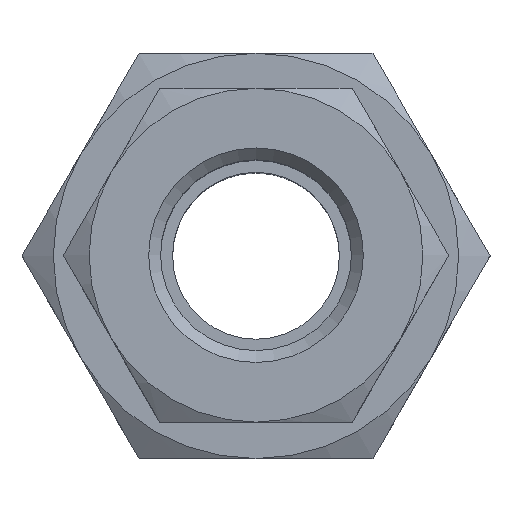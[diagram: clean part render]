
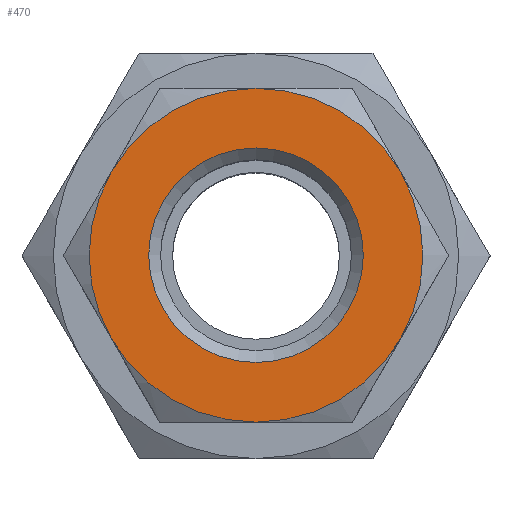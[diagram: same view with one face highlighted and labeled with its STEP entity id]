
A CAD part, top view. The second image highlights one B-rep face of the part: STEP entity #470.
In plain terms, the highlighted planar face has unit normal (0, 0, 1).
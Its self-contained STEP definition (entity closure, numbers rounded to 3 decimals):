
#470=ADVANCED_FACE('', (#480,#490), #500, .T.);
#3240=AXIS2_PLACEMENT_3D('Ax2Pl3d', #3250, #3260, #3270);
#3280=AXIS2_PLACEMENT_3D('Ax2Pl3d', #3290, #3300, #3310);
#3320=AXIS2_PLACEMENT_3D('Ax2Pl3d', #3330, #3340, #3350);
#3360=AXIS2_PLACEMENT_3D('Ax2Pl3d', #3370, #3380, #3390);
#3400=AXIS2_PLACEMENT_3D('Ax2Pl3d', #3410, #3420, #3430);
#3440=AXIS2_PLACEMENT_3D('Ax2Pl3d', #3450, #3460, #3470);
#3480=AXIS2_PLACEMENT_3D('Ax2Pl3d', #3490, #3500, #3510);
#3520=AXIS2_PLACEMENT_3D('Ax2Pl3d', #3530, #3540, #3550);
#10220=CARTESIAN_POINT('', (7.699,15.446,40.615));
#10250=CARTESIAN_POINT('', (13.761,18.946,40.615));
#10280=CARTESIAN_POINT('', (19.823,15.446,40.615));
#10310=CARTESIAN_POINT('', (19.823,8.446,40.615));
#10340=CARTESIAN_POINT('', (13.761,4.946,40.615));
#10350=CARTESIAN_POINT('', (7.699,8.446,40.615));
#3250=CARTESIAN_POINT('HicPkt', (13.761,11.946,
40.615));
#3290=CARTESIAN_POINT('HicPkt', (20.761,11.946,
40.615));
#3330=CARTESIAN_POINT('HicPkt', (13.761,11.946,
40.615));
#3370=CARTESIAN_POINT('HicPkt', (13.761,11.946,
40.615));
#3410=CARTESIAN_POINT('HicPkt', (13.761,11.946,
40.615));
#3450=CARTESIAN_POINT('HicPkt', (13.761,11.946,
40.615));
#3490=CARTESIAN_POINT('HicPkt', (13.761,11.946,
40.615));
#3530=CARTESIAN_POINT('HicPkt', (13.761,11.946,
40.615));
#10360=CARTESIAN_POINT('', (13.761,16.446,40.615));
#11040=CIRCLE('Circle', #3240, 7.);
#11050=CIRCLE('Circle', #3320, 7.);
#11060=CIRCLE('Circle', #3360, 7.);
#11070=CIRCLE('Circle', #3400, 7.);
#11080=CIRCLE('Circle', #3440, 7.);
#11090=CIRCLE('Circle', #3480, 7.);
#11100=CIRCLE('Circle', #3520, 4.5);
#3260=DIRECTION('Axis', (0.,0.,-1.));
#3270=DIRECTION('RefDirection', (-1.,-0.,0.));
#3300=DIRECTION('Axis', (0.,0.,1.));
#3310=DIRECTION('RefDirection', (1.,0.,-0.));
#3340=DIRECTION('Axis', (0.,0.,-1.));
#3350=DIRECTION('RefDirection', (-1.,-0.,0.));
#3380=DIRECTION('Axis', (0.,0.,-1.));
#3390=DIRECTION('RefDirection', (-1.,-0.,0.));
#3420=DIRECTION('Axis', (0.,0.,-1.));
#3430=DIRECTION('RefDirection', (-1.,-0.,0.));
#3460=DIRECTION('Axis', (0.,0.,-1.));
#3470=DIRECTION('RefDirection', (-1.,-0.,0.));
#3500=DIRECTION('Axis', (0.,0.,-1.));
#3510=DIRECTION('RefDirection', (-1.,-0.,0.));
#3540=DIRECTION('Axis', (0.,0.,-1.));
#3550=DIRECTION('RefDirection', (-1.,-0.,0.));
#15820=EDGE_CURVE('', #15710, #15770, #11040, .T.);
#15830=EDGE_CURVE('', #15650, #15710, #11050, .T.);
#15840=EDGE_CURVE('', #15590, #15650, #11060, .T.);
#15850=EDGE_CURVE('', #15530, #15590, #11070, .T.);
#15860=EDGE_CURVE('', #15800, #15530, #11080, .T.);
#15870=EDGE_CURVE('', #15770, #15800, #11090, .T.);
#15880=EDGE_CURVE('', #15890, #15890, #11100, .T.);
#17830=EDGE_LOOP('Edge_loop', (#17840,#17850,#17860,#17870,#17880,
#17890));
#17900=EDGE_LOOP('Edge_loop', (#17910));
#490=FACE_BOUND('', #17900, .T.);
#480=FACE_OUTER_BOUND('Face_outer_bound', #17830, .T.);
#17840=ORIENTED_EDGE('', *, *, #15820, .F.);
#17850=ORIENTED_EDGE('', *, *, #15830, .F.);
#17860=ORIENTED_EDGE('', *, *, #15840, .F.);
#17870=ORIENTED_EDGE('', *, *, #15850, .F.);
#17880=ORIENTED_EDGE('', *, *, #15860, .F.);
#17890=ORIENTED_EDGE('', *, *, #15870, .F.);
#17910=ORIENTED_EDGE('', *, *, #15880, .T.);
#500=PLANE('Plane', #3280);
#15530=VERTEX_POINT('', #10220);
#15590=VERTEX_POINT('', #10250);
#15650=VERTEX_POINT('', #10280);
#15710=VERTEX_POINT('', #10310);
#15770=VERTEX_POINT('', #10340);
#15800=VERTEX_POINT('', #10350);
#15890=VERTEX_POINT('', #10360);
